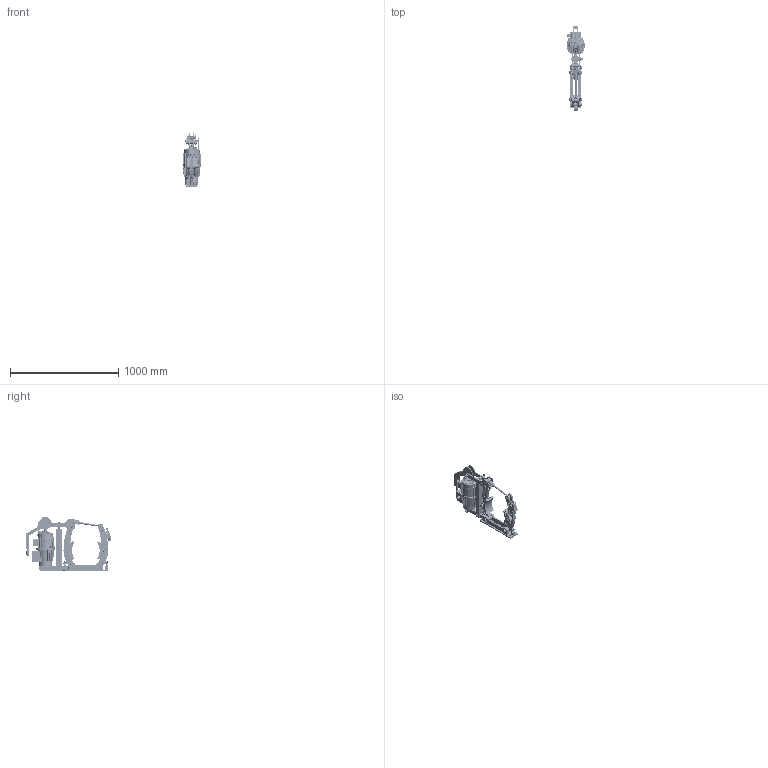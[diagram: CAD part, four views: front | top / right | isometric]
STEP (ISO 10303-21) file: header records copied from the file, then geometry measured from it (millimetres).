
FILE_DESCRIPTION((''),'2;1');
FILE_NAME('4459_254_505_E00001','2018-01-31T',('VORO'),(''),'CREO PARAMETRIC BY PTC INC, 2017170','CREO PARAMETRIC BY PTC INC, 2017170','');
FILE_SCHEMA(('CONFIG_CONTROL_DESIGN'));
Products named in the file (1): 4459_254_505_E00001
Bounding box: 173.6 x 3060.81 x 1096.02 mm (x, y, z)
Surface area: 1616266.9 mm2 (no closed solid volume)
Topology: 0 solids, 4541 shells, 5067 faces, 32007 edges, 30905 vertices
Faces by surface type: plane 2418, cylinder 1784, cone 633, torus 199, bspline 33
Entity records: 536687 total; most frequent: CARTESIAN_POINT 156556, PRESENTATION_STYLE_ASSIGNMENT 41604, DIRECTION 37200, STYLED_ITEM 36537, ORIENTED_EDGE 33093, CURVE_STYLE 31996, EDGE_CURVE 31996, VERTEX_POINT 30908
